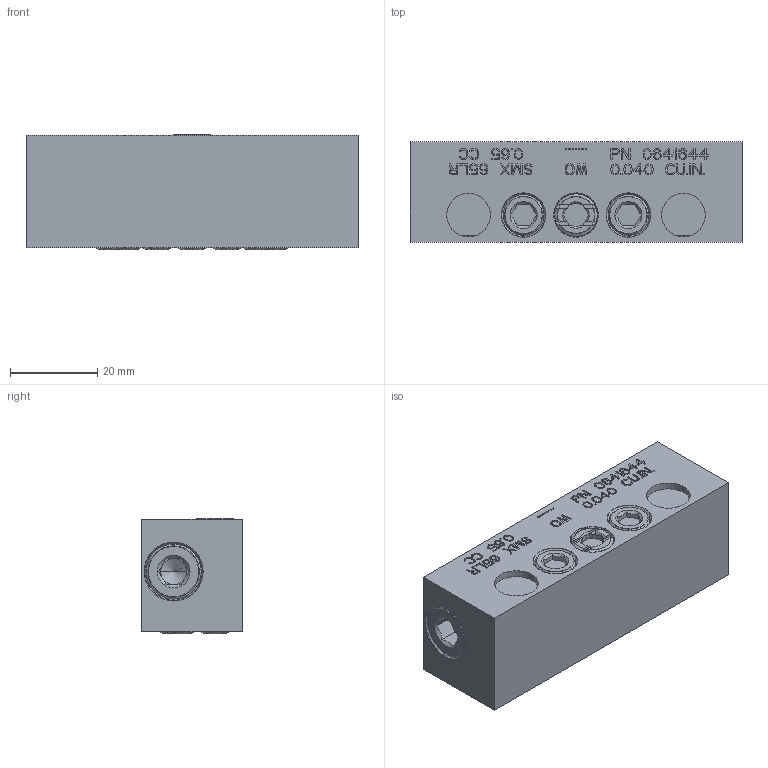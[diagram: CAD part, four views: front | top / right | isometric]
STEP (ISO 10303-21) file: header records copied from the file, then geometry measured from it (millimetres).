
FILE_DESCRIPTION((''),'2;1');
FILE_NAME('0641644_SMX_65LR','2023-07-21T12:05:31',('pietro.masciave'),(''),'CREO PARAMETRIC BY PTC INC, 2022281','CREO PARAMETRIC BY PTC INC, 2022281','');
FILE_SCHEMA(('CONFIG_CONTROL_DESIGN'));
Length unit declared in the file: millimetre
Products named in the file (1): 0641644_SMX_65LR
Bounding box: 76 x 23 x 26.33 mm (x, y, z)
Volume: 43968.1 mm3; surface area: 12621.7 mm2
Topology: 1 solids, 14 shells, 1358 faces, 3746 edges, 2489 vertices
Faces by surface type: plane 1184, cylinder 108, cone 44, torus 22
Entity records: 43622 total; most frequent: CARTESIAN_POINT 8721, ORIENTED_EDGE 7444, DIRECTION 6751, EDGE_CURVE 3742, VECTOR 3313, LINE 3313, VERTEX_POINT 2489, AXIS2_PLACEMENT_3D 1719
